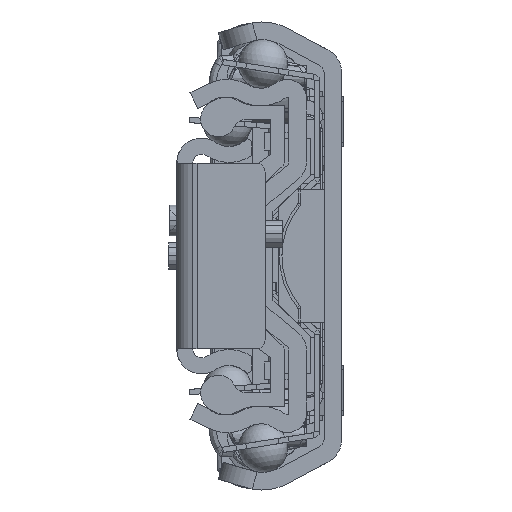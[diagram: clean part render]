
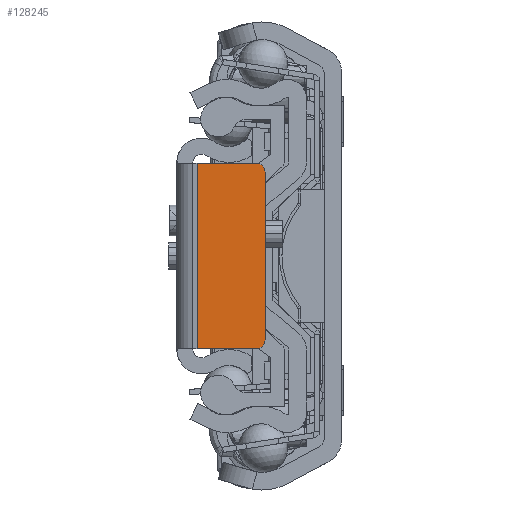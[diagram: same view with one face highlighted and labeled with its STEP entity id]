
A CAD part, left-side view. The second image highlights one B-rep face of the part: STEP entity #128245.
In plain terms, the highlighted planar face has unit normal (-1, 0, 0).
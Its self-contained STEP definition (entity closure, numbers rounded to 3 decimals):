
#123153=DIRECTION('',(0.,-1.,0.));
#123154=VECTOR('',#123153,6.7);
#123155=CARTESIAN_POINT('',(0.,-2.3,10.5));
#123156=LINE('',#123155,#123154);
#124086=DIRECTION('',(0.,-1.,0.));
#124087=VECTOR('',#124086,6.7);
#124088=CARTESIAN_POINT('',(0.,-2.3,-10.5));
#124089=LINE('',#124088,#124087);
#124090=CARTESIAN_POINT('',(0.,-9.,9.5));
#124091=DIRECTION('',(-1.,0.,0.));
#124092=DIRECTION('',(0.,-1.,0.));
#124093=AXIS2_PLACEMENT_3D('',#124090,#124091,#124092);
#124095=CARTESIAN_POINT('',(0.,-9.,-9.5));
#124096=DIRECTION('',(-1.,0.,0.));
#124097=DIRECTION('',(0.,0.,-1.));
#124098=AXIS2_PLACEMENT_3D('',#124095,#124096,#124097);
#124100=DIRECTION('',(0.,0.,1.));
#124101=VECTOR('',#124100,21.);
#124102=CARTESIAN_POINT('',(0.,-2.3,-10.5));
#124103=LINE('',#124102,#124101);
#124112=DIRECTION('',(0.,0.,1.));
#124113=VECTOR('',#124112,19.);
#124114=CARTESIAN_POINT('',(0.,-10.,-9.5));
#124115=LINE('',#124114,#124113);
#126647=CARTESIAN_POINT('',(0.,-2.3,-10.5));
#126648=CARTESIAN_POINT('',(0.,-2.3,10.5));
#126649=VERTEX_POINT('',#126647);
#126650=VERTEX_POINT('',#126648);
#126672=CARTESIAN_POINT('',(0.,-10.,9.5));
#126673=VERTEX_POINT('',#126672);
#126674=CARTESIAN_POINT('',(0.,-9.,10.5));
#126675=VERTEX_POINT('',#126674);
#126676=CARTESIAN_POINT('',(0.,-9.,-10.5));
#126677=CARTESIAN_POINT('',(0.,-10.,-9.5));
#126678=VERTEX_POINT('',#126676);
#126679=VERTEX_POINT('',#126677);
#128230=CARTESIAN_POINT('',(0.,-2.3,-10.5));
#128231=DIRECTION('',(-1.,0.,0.));
#128232=DIRECTION('',(0.,-1.,0.));
#128233=AXIS2_PLACEMENT_3D('',#128230,#128231,#128232);
#128234=PLANE('',#128233);
#128235=ORIENTED_EDGE('',*,*,#127701,.F.);
#128237=ORIENTED_EDGE('',*,*,#128236,.F.);
#128238=ORIENTED_EDGE('',*,*,#128221,.F.);
#128239=ORIENTED_EDGE('',*,*,#128211,.F.);
#128241=ORIENTED_EDGE('',*,*,#128240,.T.);
#128242=ORIENTED_EDGE('',*,*,#127678,.T.);
#128243=EDGE_LOOP('',(#128235,#128237,#128238,#128239,#128241,#128242));
#128244=FACE_OUTER_BOUND('',#128243,.F.);
#124094=CIRCLE('',#124093,1.);
#124099=CIRCLE('',#124098,1.);
#127678=EDGE_CURVE('',#126650,#126675,#123156,.T.);
#127701=EDGE_CURVE('',#126673,#126675,#124094,.T.);
#128211=EDGE_CURVE('',#126649,#126678,#124089,.T.);
#128221=EDGE_CURVE('',#126678,#126679,#124099,.T.);
#128236=EDGE_CURVE('',#126679,#126673,#124115,.T.);
#128240=EDGE_CURVE('',#126649,#126650,#124103,.T.);
#128245=ADVANCED_FACE('',(#128244),#128234,.T.);
